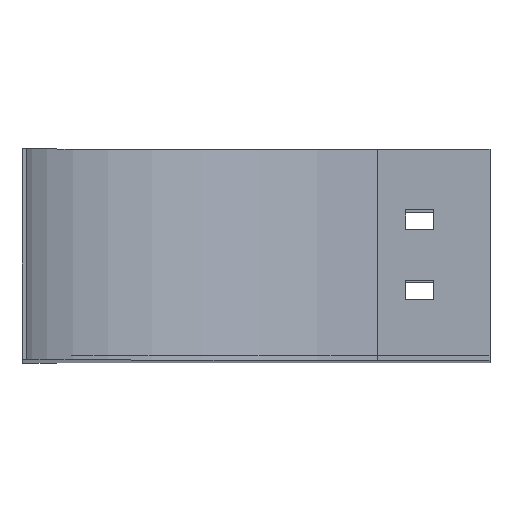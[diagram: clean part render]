
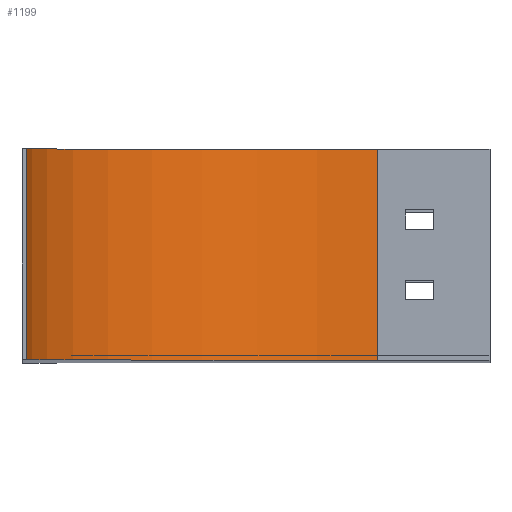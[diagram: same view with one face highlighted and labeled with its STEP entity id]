
A CAD part, top view. The second image highlights one B-rep face of the part: STEP entity #1199.
In plain terms, the highlighted cylindrical face has radius 125 mm (diameter 250 mm), a partial arc.
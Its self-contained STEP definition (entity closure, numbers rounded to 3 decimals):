
#42 = CARTESIAN_POINT ( 'NONE',  ( 0., 75., -125. ) ) ;
#60 = CARTESIAN_POINT ( 'NONE',  ( 0., 75., 0. ) ) ;
#71 = ORIENTED_EDGE ( 'NONE', *, *, #193, .F. ) ;
#76 = AXIS2_PLACEMENT_3D ( 'NONE', #1516, #1624, #471 ) ;
#97 = VERTEX_POINT ( 'NONE', #42 ) ;
#103 = DIRECTION ( 'NONE',  ( 0., -1., 0. ) ) ;
#106 = CIRCLE ( 'NONE', #678, 125. ) ;
#193 = EDGE_CURVE ( 'NONE', #219, #97, #106, .T. ) ;
#219 = VERTEX_POINT ( 'NONE', #750 ) ;
#224 = LINE ( 'NONE', #989, #677 ) ;
#238 = AXIS2_PLACEMENT_3D ( 'NONE', #582, #1119, #714 ) ;
#266 = EDGE_CURVE ( 'NONE', #97, #1483, #962, .T. ) ;
#320 = DIRECTION ( 'NONE',  ( 0., -1., 0. ) ) ;
#471 = DIRECTION ( 'NONE',  ( 0., 0., -1. ) ) ;
#497 = FACE_OUTER_BOUND ( 'NONE', #1415, .T. ) ;
#504 = DIRECTION ( 'NONE',  ( 0., 0., -1. ) ) ;
#582 = CARTESIAN_POINT ( 'NONE',  ( 0., 0., 0. ) ) ;
#677 = VECTOR ( 'NONE', #103, 1000. ) ;
#678 = AXIS2_PLACEMENT_3D ( 'NONE', #60, #1121, #504 ) ;
#687 = CARTESIAN_POINT ( 'NONE',  ( 0., 75., -125. ) ) ;
#689 = VERTEX_POINT ( 'NONE', #1053 ) ;
#714 = DIRECTION ( 'NONE',  ( 0., 0., -1. ) ) ;
#747 = EDGE_CURVE ( 'NONE', #689, #1483, #756, .T. ) ;
#750 = CARTESIAN_POINT ( 'NONE',  ( -125., 75., 0. ) ) ;
#756 = CIRCLE ( 'NONE', #238, 125. ) ;
#806 = ORIENTED_EDGE ( 'NONE', *, *, #1224, .T. ) ;
#867 = CYLINDRICAL_SURFACE ( 'NONE', #76, 125. ) ;
#937 = CARTESIAN_POINT ( 'NONE',  ( 0., 0., -125. ) ) ;
#962 = LINE ( 'NONE', #687, #1376 ) ;
#989 = CARTESIAN_POINT ( 'NONE',  ( -125., 75., 0. ) ) ;
#1044 = ORIENTED_EDGE ( 'NONE', *, *, #747, .T. ) ;
#1053 = CARTESIAN_POINT ( 'NONE',  ( -125., 0., 0. ) ) ;
#1119 = DIRECTION ( 'NONE',  ( 0., -1., 0. ) ) ;
#1121 = DIRECTION ( 'NONE',  ( 0., -1., 0. ) ) ;
#1199 = ADVANCED_FACE ( 'NONE', ( #497 ), #867, .F. ) ;
#1224 = EDGE_CURVE ( 'NONE', #219, #689, #224, .T. ) ;
#1230 = ORIENTED_EDGE ( 'NONE', *, *, #266, .F. ) ;
#1376 = VECTOR ( 'NONE', #320, 1000. ) ;
#1415 = EDGE_LOOP ( 'NONE', ( #1044, #1230, #71, #806 ) ) ;
#1483 = VERTEX_POINT ( 'NONE', #937 ) ;
#1516 = CARTESIAN_POINT ( 'NONE',  ( 0., 75., 0. ) ) ;
#1624 = DIRECTION ( 'NONE',  ( 0., -1., 0. ) ) ;
